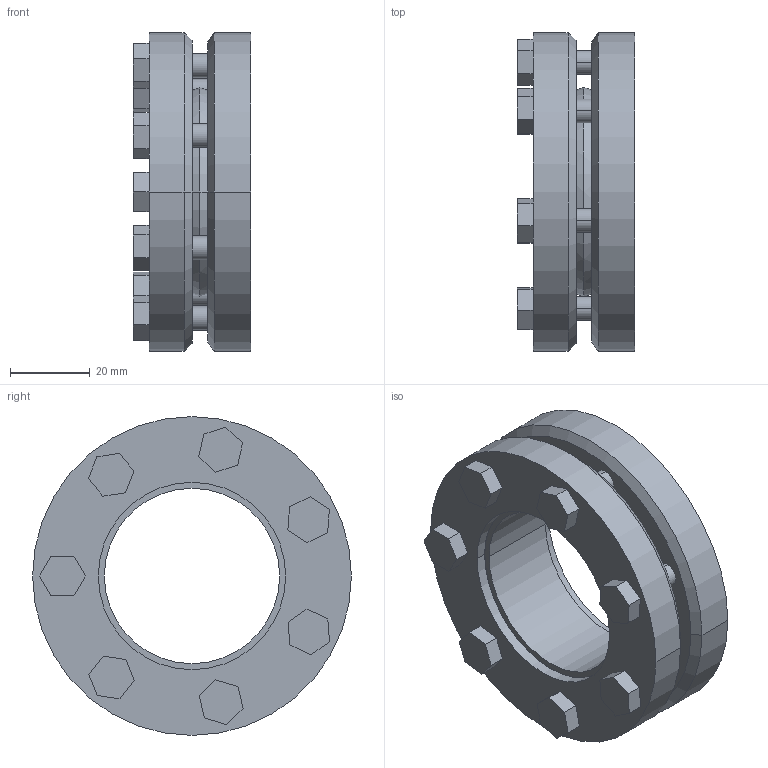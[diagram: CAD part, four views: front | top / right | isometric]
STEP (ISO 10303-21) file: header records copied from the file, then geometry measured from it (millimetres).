
FILE_DESCRIPTION((''),'2;1');
FILE_NAME('CALEN3_1','2015-06-07T',('Luca'),(''),'PRO/ENGINEER BY PARAMETRIC TECHNOLOGY CORPORATION, 2008230','PRO/ENGINEER BY PARAMETRIC TECHNOLOGY CORPORATION, 2008230','');
FILE_SCHEMA(('CONFIG_CONTROL_DESIGN'));
Length unit declared in the file: millimetre
Products named in the file (1): CALEN3_1
Bounding box: 29.5 x 80 x 80 mm (x, y, z)
Volume: 78771 mm3; surface area: 28222.4 mm2
Topology: 2 solids, 2 shells, 91 faces, 224 edges, 146 vertices
Faces by surface type: plane 55, cylinder 24, cone 12
Entity records: 2752 total; most frequent: DIRECTION 468, CARTESIAN_POINT 461, ORIENTED_EDGE 448, EDGE_CURVE 224, VECTOR 162, LINE 162, AXIS2_PLACEMENT_3D 153, VERTEX_POINT 146
